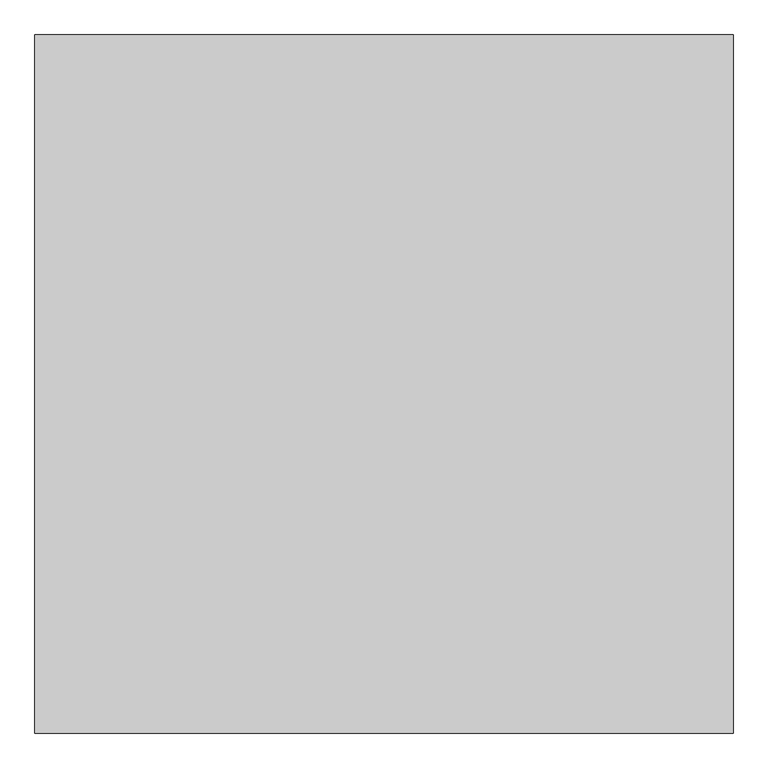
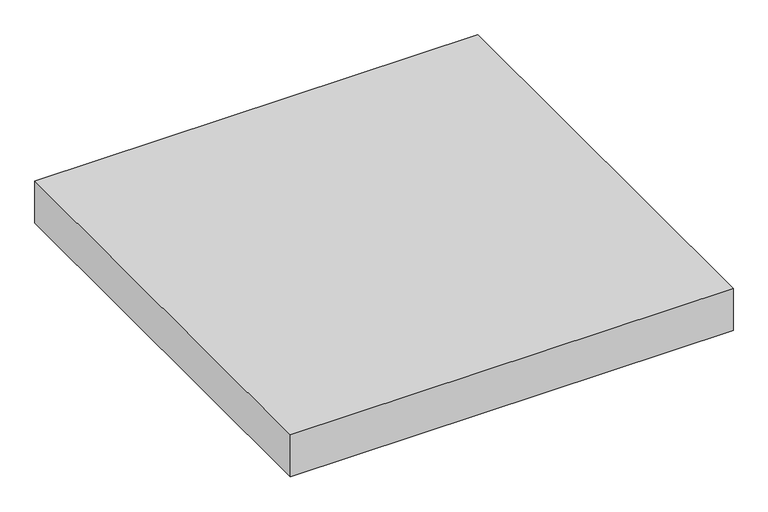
"""IFC4 building model written with IfcOpenShell, lengths in millimetres: proxy geometry, Modelos genéricos 9 : Modelos genéricos 1."""

from ifc_helpers import new_model, si_unit, origin, origin_with_axes, place, context, project, spatial, polyline, outline, extrude, source, transform, mapped, element, save


def generic_models_f406bcb4(model_context):
    return source(origin(), model_context, "Body", "SweptSolid", [
        extrude(outline(polyline([(-14225.6026359, -8545.712814), (-14225.6026359, -10045.712814), (-15725.6026359, -10045.712814), (-15725.6026359, -8545.712814), (-14225.6026359, -8545.712814)])), origin_with_axes(), (0.0, 0.0, 1.0), 150.0),
    ])


if __name__ == "__main__":
    model = new_model("IFC4")
    model_context = context("Model", 3, world=origin())
    ifc_project = project(units=[si_unit("LENGTHUNIT", "METRE", prefix="MILLI")], contexts=[model_context])
    site = spatial("IfcSite", under=ifc_project)
    building = spatial("IfcBuilding", under=site)
    placement = place(None, origin())
    generic_models_shape = generic_models_f406bcb4(model_context)
    element("IfcBuildingElementProxy", 1, Name="Modelos genéricos 9 : Modelos genéricos 1", ObjectType="Modelos genéricos 9 : Modelos genéricos 1", at=placement, inside=building, context=model_context, shape_type="MappedRepresentation", body=[
        mapped(generic_models_shape, transform((0.0, 0.0, 0.0), x_axis=(1.0, 0.0, 0.0), y_axis=(0.0, 1.0, 0.0), z_axis=(0.0, 0.0, 1.0))),
    ])
    save(model, "model.ifc")
